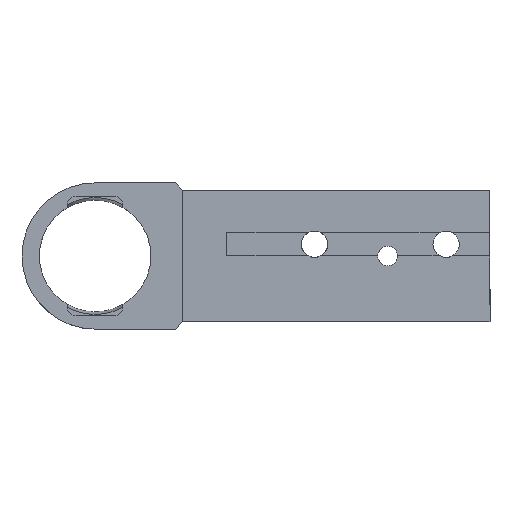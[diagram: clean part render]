
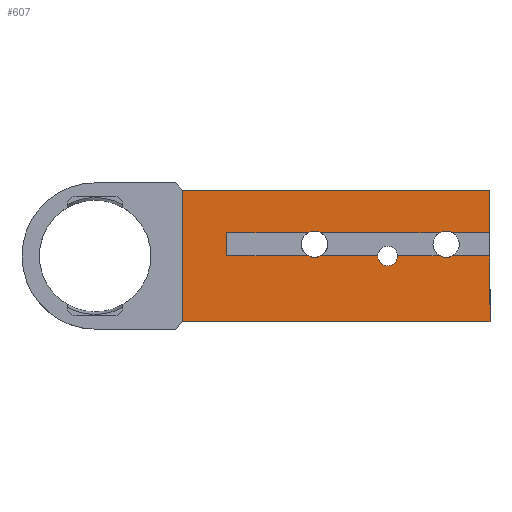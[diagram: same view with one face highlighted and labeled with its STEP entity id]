
A CAD part, top view. The second image highlights one B-rep face of the part: STEP entity #607.
In plain terms, the highlighted planar face has unit normal (0, 0, 1).
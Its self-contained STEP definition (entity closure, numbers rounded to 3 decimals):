
#13 = VERTEX_POINT ( 'NONE', #583 ) ;
#30 = VERTEX_POINT ( 'NONE', #623 ) ;
#80 = VERTEX_POINT ( 'NONE', #891 ) ;
#86 = EDGE_CURVE ( 'NONE', #97, #80, #825, .T. ) ;
#97 = VERTEX_POINT ( 'NONE', #810 ) ;
#139 = EDGE_CURVE ( 'NONE', #349, #153, #893, .T. ) ;
#141 = EDGE_CURVE ( 'NONE', #374, #30, #793, .T. ) ;
#153 = VERTEX_POINT ( 'NONE', #782 ) ;
#162 = VERTEX_POINT ( 'NONE', #780 ) ;
#164 = EDGE_CURVE ( 'NONE', #30, #13, #169, .T. ) ;
#169 = CIRCLE ( 'NONE', #603, 4.5 ) ;
#172 = EDGE_CURVE ( 'NONE', #174, #571, #1001, .T. ) ;
#174 = VERTEX_POINT ( 'NONE', #966 ) ;
#198 = EDGE_CURVE ( 'NONE', #162, #254, #1030, .T. ) ;
#210 = VERTEX_POINT ( 'NONE', #1005 ) ;
#254 = VERTEX_POINT ( 'NONE', #1146 ) ;
#284 = VERTEX_POINT ( 'NONE', #1144 ) ;
#293 = EDGE_CURVE ( 'NONE', #343, #284, #1071, .T. ) ;
#343 = VERTEX_POINT ( 'NONE', #1291 ) ;
#349 = VERTEX_POINT ( 'NONE', #1278 ) ;
#357 = EDGE_CURVE ( 'NONE', #13, #97, #1360, .T. ) ;
#374 = VERTEX_POINT ( 'NONE', #1301 ) ;
#381 = EDGE_CURVE ( 'NONE', #506, #174, #1393, .T. ) ;
#426 = EDGE_CURVE ( 'NONE', #458, #374, #1333, .T. ) ;
#455 = EDGE_CURVE ( 'NONE', #210, #458, #1455, .T. ) ;
#458 = VERTEX_POINT ( 'NONE', #1451 ) ;
#467 = ORIENTED_EDGE ( 'NONE', *, *, #293, .F. ) ;
#472 = EDGE_CURVE ( 'NONE', #473, #343, #1407, .T. ) ;
#473 = VERTEX_POINT ( 'NONE', #1565 ) ;
#503 = VERTEX_POINT ( 'NONE', #1626 ) ;
#506 = VERTEX_POINT ( 'NONE', #1542 ) ;
#534 = ORIENTED_EDGE ( 'NONE', *, *, #139, .F. ) ;
#543 = ORIENTED_EDGE ( 'NONE', *, *, #544, .F. ) ;
#544 = EDGE_CURVE ( 'NONE', #80, #473, #1579, .T. ) ;
#557 = EDGE_CURVE ( 'NONE', #571, #503, #1510, .T. ) ;
#571 = VERTEX_POINT ( 'NONE', #1585 ) ;
#579 = EDGE_CURVE ( 'NONE', #254, #506, #1640, .T. ) ;
#580 = EDGE_CURVE ( 'NONE', #284, #349, #1634, .T. ) ;
#583 = CARTESIAN_POINT ( 'NONE',  ( 117.938, 8., 16.5 ) ) ;
#594 = DIRECTION ( 'NONE',  ( 0., 0., 1. ) ) ;
#595 = CARTESIAN_POINT ( 'NONE',  ( 120., 4., 16.5 ) ) ;
#603 = AXIS2_PLACEMENT_3D ( 'NONE', #595, #594, #688 ) ;
#607 = ADVANCED_FACE ( 'NONE', ( #1564 ), #1562, .F. ) ;
#608 = ORIENTED_EDGE ( 'NONE', *, *, #86, .F. ) ;
#610 = EDGE_CURVE ( 'NONE', #153, #162, #945, .T. ) ;
#611 = EDGE_LOOP ( 'NONE', ( #534, #637, #467, #745, #543, #608, #684, #772, #683, #725, #746, #769, #748, #682, #733, #747, #681, #735 ) ) ;
#623 = CARTESIAN_POINT ( 'NONE',  ( 122.062, 8., 16.5 ) ) ;
#637 = ORIENTED_EDGE ( 'NONE', *, *, #580, .F. ) ;
#681 = ORIENTED_EDGE ( 'NONE', *, *, #198, .F. ) ;
#682 = ORIENTED_EDGE ( 'NONE', *, *, #172, .F. ) ;
#683 = ORIENTED_EDGE ( 'NONE', *, *, #141, .F. ) ;
#684 = ORIENTED_EDGE ( 'NONE', *, *, #357, .F. ) ;
#688 = DIRECTION ( 'NONE',  ( 1., 0., 0. ) ) ;
#725 = ORIENTED_EDGE ( 'NONE', *, *, #426, .F. ) ;
#732 = EDGE_CURVE ( 'NONE', #503, #210, #1719, .T. ) ;
#733 = ORIENTED_EDGE ( 'NONE', *, *, #381, .F. ) ;
#735 = ORIENTED_EDGE ( 'NONE', *, *, #610, .F. ) ;
#745 = ORIENTED_EDGE ( 'NONE', *, *, #472, .F. ) ;
#746 = ORIENTED_EDGE ( 'NONE', *, *, #455, .F. ) ;
#747 = ORIENTED_EDGE ( 'NONE', *, *, #579, .F. ) ;
#748 = ORIENTED_EDGE ( 'NONE', *, *, #557, .F. ) ;
#769 = ORIENTED_EDGE ( 'NONE', *, *, #732, .F. ) ;
#772 = ORIENTED_EDGE ( 'NONE', *, *, #164, .F. ) ;
#780 = CARTESIAN_POINT ( 'NONE',  ( 103.4, 0., 16.5 ) ) ;
#782 = CARTESIAN_POINT ( 'NONE',  ( 96.6, 0., 16.5 ) ) ;
#790 = DIRECTION ( 'NONE',  ( -1., 0., 0. ) ) ;
#791 = VECTOR ( 'NONE', #790, 1000. ) ;
#792 = CARTESIAN_POINT ( 'NONE',  ( 135., 8., 16.5 ) ) ;
#793 = LINE ( 'NONE', #792, #791 ) ;
#796 = DIRECTION ( 'NONE',  ( 1., 0., 0. ) ) ;
#797 = VECTOR ( 'NONE', #796, 1000. ) ;
#798 = CARTESIAN_POINT ( 'NONE',  ( 135., 0., 16.5 ) ) ;
#810 = CARTESIAN_POINT ( 'NONE',  ( 77.062, 8., 16.5 ) ) ;
#825 = CIRCLE ( 'NONE', #874, 4.5 ) ;
#870 = DIRECTION ( 'NONE',  ( 1., 0., 0. ) ) ;
#871 = DIRECTION ( 'NONE',  ( 0., 0., 1. ) ) ;
#872 = CARTESIAN_POINT ( 'NONE',  ( 75., 4., 16.5 ) ) ;
#874 = AXIS2_PLACEMENT_3D ( 'NONE', #872, #871, #870 ) ;
#891 = CARTESIAN_POINT ( 'NONE',  ( 72.938, 8., 16.5 ) ) ;
#893 = LINE ( 'NONE', #798, #797 ) ;
#940 = DIRECTION ( 'NONE',  ( 1., 0., 0. ) ) ;
#941 = DIRECTION ( 'NONE',  ( 0., 0., 1. ) ) ;
#942 = CARTESIAN_POINT ( 'NONE',  ( 100., 0., 16.5 ) ) ;
#943 = AXIS2_PLACEMENT_3D ( 'NONE', #942, #941, #940 ) ;
#945 = CIRCLE ( 'NONE', #943, 3.4 ) ;
#965 = VECTOR ( 'NONE', #976, 1000. ) ;
#966 = CARTESIAN_POINT ( 'NONE',  ( 135., 0., 16.5 ) ) ;
#976 = DIRECTION ( 'NONE',  ( 0., -1., 0. ) ) ;
#979 = DIRECTION ( 'NONE',  ( 1., 0., 0. ) ) ;
#980 = VECTOR ( 'NONE', #979, 1000. ) ;
#1001 = LINE ( 'NONE', #1031, #965 ) ;
#1005 = CARTESIAN_POINT ( 'NONE',  ( 30., 22.5, 16.5 ) ) ;
#1029 = CARTESIAN_POINT ( 'NONE',  ( 135., 0., 16.5 ) ) ;
#1030 = LINE ( 'NONE', #1029, #980 ) ;
#1031 = CARTESIAN_POINT ( 'NONE',  ( 135., -22.5, 16.5 ) ) ;
#1069 = VECTOR ( 'NONE', #1096, 1000. ) ;
#1070 = CARTESIAN_POINT ( 'NONE',  ( 135., 0., 16.5 ) ) ;
#1071 = LINE ( 'NONE', #1070, #1069 ) ;
#1096 = DIRECTION ( 'NONE',  ( 1., 0., 0. ) ) ;
#1144 = CARTESIAN_POINT ( 'NONE',  ( 72.938, 0., 16.5 ) ) ;
#1146 = CARTESIAN_POINT ( 'NONE',  ( 117.938, 0., 16.5 ) ) ;
#1275 = VECTOR ( 'NONE', #1308, 1000. ) ;
#1276 = CARTESIAN_POINT ( 'NONE',  ( 135., 0., 16.5 ) ) ;
#1278 = CARTESIAN_POINT ( 'NONE',  ( 77.062, 0., 16.5 ) ) ;
#1291 = CARTESIAN_POINT ( 'NONE',  ( 45., 0., 16.5 ) ) ;
#1301 = CARTESIAN_POINT ( 'NONE',  ( 135., 8., 16.5 ) ) ;
#1308 = DIRECTION ( 'NONE',  ( 1., 0., 0. ) ) ;
#1330 = DIRECTION ( 'NONE',  ( 0., -1., 0. ) ) ;
#1331 = VECTOR ( 'NONE', #1330, 1000. ) ;
#1332 = CARTESIAN_POINT ( 'NONE',  ( 135., 8., 16.5 ) ) ;
#1333 = LINE ( 'NONE', #1332, #1331 ) ;
#1357 = DIRECTION ( 'NONE',  ( -1., 0., 0. ) ) ;
#1358 = VECTOR ( 'NONE', #1357, 1000. ) ;
#1359 = CARTESIAN_POINT ( 'NONE',  ( 135., 8., 16.5 ) ) ;
#1360 = LINE ( 'NONE', #1359, #1358 ) ;
#1393 = LINE ( 'NONE', #1276, #1275 ) ;
#1404 = DIRECTION ( 'NONE',  ( 0., -1., 0. ) ) ;
#1405 = VECTOR ( 'NONE', #1404, 1000. ) ;
#1406 = CARTESIAN_POINT ( 'NONE',  ( 45., 0., 16.5 ) ) ;
#1407 = LINE ( 'NONE', #1406, #1405 ) ;
#1451 = CARTESIAN_POINT ( 'NONE',  ( 135., 22.5, 16.5 ) ) ;
#1454 = VECTOR ( 'NONE', #1489, 1000. ) ;
#1455 = LINE ( 'NONE', #1465, #1454 ) ;
#1465 = CARTESIAN_POINT ( 'NONE',  ( 135., 22.5, 16.5 ) ) ;
#1489 = DIRECTION ( 'NONE',  ( 1., 0., 0. ) ) ;
#1505 = DIRECTION ( 'NONE',  ( -1., 0., 0. ) ) ;
#1506 = VECTOR ( 'NONE', #1505, 1000. ) ;
#1510 = LINE ( 'NONE', #1613, #1612 ) ;
#1520 = AXIS2_PLACEMENT_3D ( 'NONE', #1527, #1526, #1534 ) ;
#1524 = DIRECTION ( 'NONE',  ( 1., 0., 0. ) ) ;
#1525 = DIRECTION ( 'NONE',  ( 0., 0., 1. ) ) ;
#1526 = DIRECTION ( 'NONE',  ( 0., 0., -1. ) ) ;
#1527 = CARTESIAN_POINT ( 'NONE',  ( 135., 0., 16.5 ) ) ;
#1529 = AXIS2_PLACEMENT_3D ( 'NONE', #1561, #1536, #1535 ) ;
#1534 = DIRECTION ( 'NONE',  ( 1., 0., 0. ) ) ;
#1535 = DIRECTION ( 'NONE',  ( 1., 0., 0. ) ) ;
#1536 = DIRECTION ( 'NONE',  ( 0., 0., 1. ) ) ;
#1542 = CARTESIAN_POINT ( 'NONE',  ( 122.062, 0., 16.5 ) ) ;
#1558 = AXIS2_PLACEMENT_3D ( 'NONE', #1559, #1525, #1524 ) ;
#1559 = CARTESIAN_POINT ( 'NONE',  ( 120., 4., 16.5 ) ) ;
#1561 = CARTESIAN_POINT ( 'NONE',  ( 75., 4., 16.5 ) ) ;
#1562 = PLANE ( 'NONE',  #1520 ) ;
#1564 = FACE_OUTER_BOUND ( 'NONE', #611, .T. ) ;
#1565 = CARTESIAN_POINT ( 'NONE',  ( 45., 8., 16.5 ) ) ;
#1572 = CARTESIAN_POINT ( 'NONE',  ( 135., 8., 16.5 ) ) ;
#1579 = LINE ( 'NONE', #1572, #1506 ) ;
#1585 = CARTESIAN_POINT ( 'NONE',  ( 135., -22.5, 16.5 ) ) ;
#1603 = DIRECTION ( 'NONE',  ( -1., 0., 0. ) ) ;
#1612 = VECTOR ( 'NONE', #1603, 1000. ) ;
#1613 = CARTESIAN_POINT ( 'NONE',  ( 135., -22.5, 16.5 ) ) ;
#1626 = CARTESIAN_POINT ( 'NONE',  ( 30., -22.5, 16.5 ) ) ;
#1634 = CIRCLE ( 'NONE', #1529, 4.5 ) ;
#1640 = CIRCLE ( 'NONE', #1558, 4.5 ) ;
#1698 = CARTESIAN_POINT ( 'NONE',  ( 30., -22.5, 16.5 ) ) ;
#1717 = DIRECTION ( 'NONE',  ( 0., 1., 0. ) ) ;
#1718 = VECTOR ( 'NONE', #1717, 1000. ) ;
#1719 = LINE ( 'NONE', #1698, #1718 ) ;
